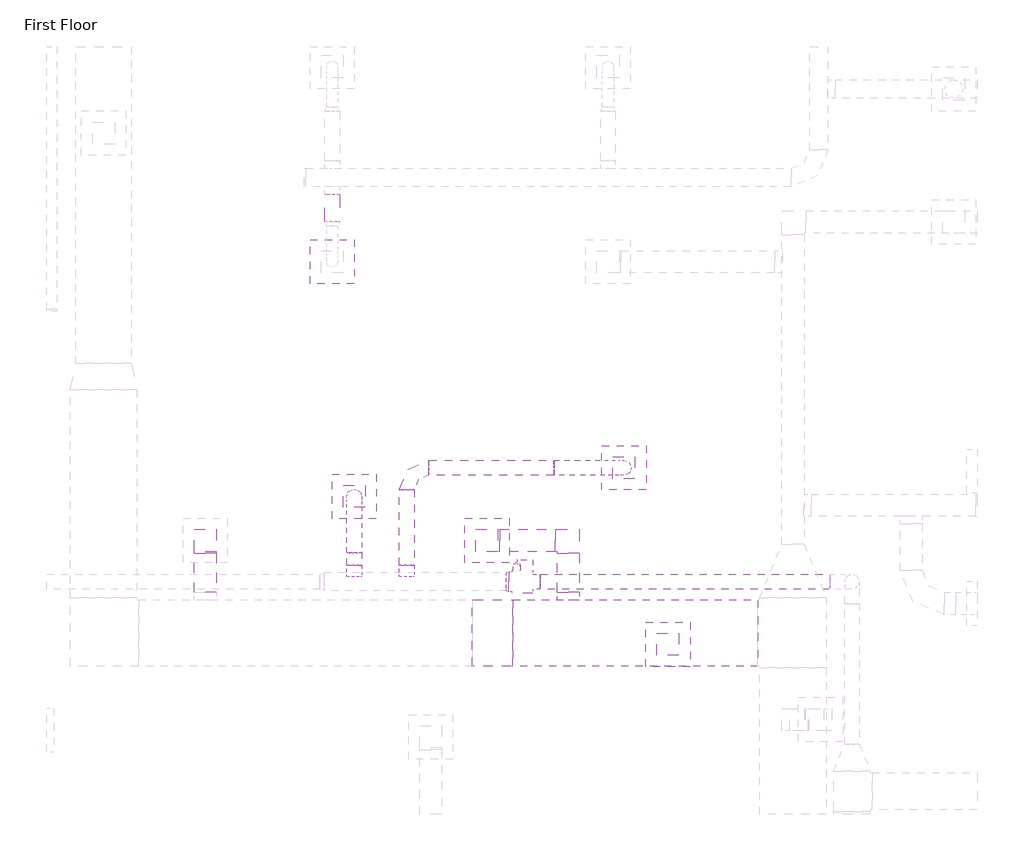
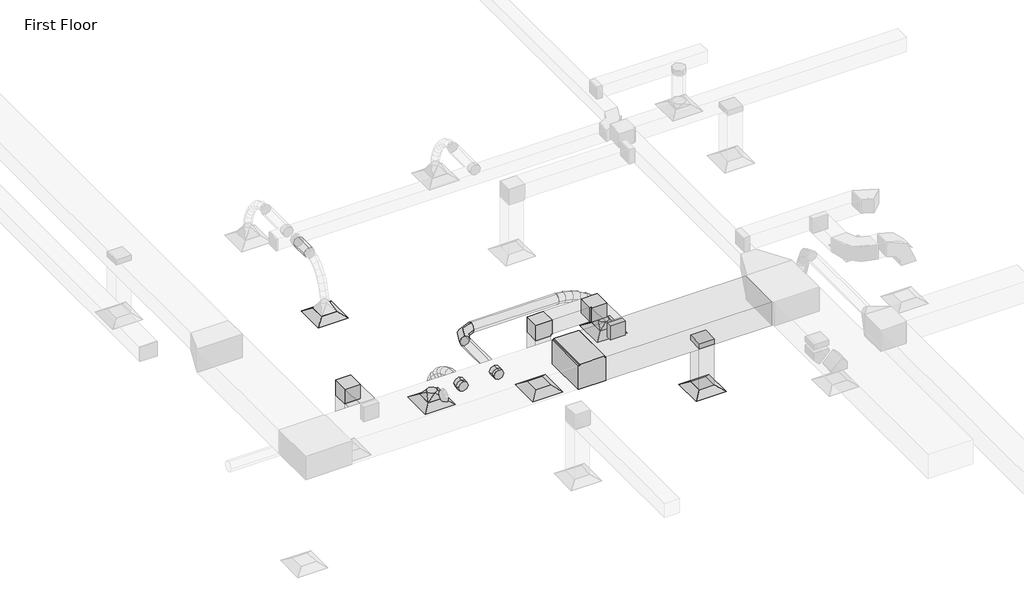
# One storey, part 13 of 61: 14 duct segments, 12 duct fittings, 5 air terminals, 1 proxy.
"""IFC4 building model written with IfcOpenShell, lengths in millimetres."""

from ifc_helpers import new_model, si_unit, point, frame, frame_2d, origin, place, context, project, spatial, polyline, circle_curve, ellipse_curve, trimmed, segment, composite_curve, outline, extrude, transform, mapped, element, save
from ifc_brep_helpers import plane_surface, cylinder_surface, advanced_brep
from components import m_exhaust_grill_er_600_x_600_face_300_x_300_connection_ff221211, m_vav_unit_single_duct_200_mm_f9143229, m_rectangular_elbow_mitered_standard_8eee5933, m_rectangular_takeoff_standard_c00386d1, m_rectangular_takeoff_standard_b44bfa45, m_rectangular_tee_standard_badd32bc, m_rectangular_to_round_transition_angle_45_degree_60daae35, m_rectangular_to_round_transition_angle_45_degree_2367f443, m_round_elbow_1_5_d_b7bc3624, m_round_takeoff_standard_2adb3d06

model = new_model("IFC4")

# Units and contexts
model_context = context("Model", 3, world=origin())
ifc_project = project(units=[si_unit("LENGTHUNIT", "METRE", prefix="MILLI")], contexts=[model_context])

# Site, building, storey
site = spatial("IfcSite", under=ifc_project)
building = spatial("IfcBuilding", under=site)
storey = spatial("IfcBuildingStorey", under=building, Name="First Floor", Elevation=0.0)

# Air terminals
placement = place(None, origin())
m_exhaust_grill_er_600_x_600_face_300_x_300_connection_shape = m_exhaust_grill_er_600_x_600_face_300_x_300_connection_ff221211(model_context)
element("IfcAirTerminal", 1, ObjectType="M_Return Register : RR-600 x 600 Face 300 x 300 Connection", at=placement, inside=storey, context=model_context, shape_type="MappedRepresentation", body=[
    mapped(m_exhaust_grill_er_600_x_600_face_300_x_300_connection_shape, transform((-44016.2479262, 26481.8812417, 2680.0), x_axis=(1.0, 0.0, 0.0), y_axis=(0.0, 1.0, 0.0), z_axis=(0.0, 0.0, 1.0))),
])
element("IfcAirTerminal", 2, ObjectType="M_Return Register : RR-600 x 600 Face 300 x 300 Connection", at=placement, inside=storey, context=model_context, shape_type="MappedRepresentation", body=[
    mapped(m_exhaust_grill_er_600_x_600_face_300_x_300_connection_shape, transform((-41563.2007188, 25073.0, 2680.0), x_axis=(1.0, 0.0, 0.0), y_axis=(0.0, 1.0, 0.0), z_axis=(0.0, 0.0, 1.0))),
])
element("IfcAirTerminal", 3, ObjectType="M_Supply Diffuser : SD-600 x 600 Face 300 x 300 Connection", at=placement, inside=storey, context=model_context, shape_type="MappedRepresentation", body=[
    mapped(m_exhaust_grill_er_600_x_600_face_300_x_300_connection_shape, transform((-46112.4296862, 30260.8017144, 2680.0), x_axis=(1.0, 0.0, 0.0), y_axis=(0.0, 1.0, 0.0), z_axis=(0.0, 0.0, 1.0))),
])
element("IfcAirTerminal", 4, ObjectType="M_Supply Diffuser : SD-600 x 600 Face 300 x 300 Connection", at=placement, inside=storey, context=model_context, shape_type="MappedRepresentation", body=[
    mapped(m_exhaust_grill_er_600_x_600_face_300_x_300_connection_shape, transform((-45814.0366701, 27079.0052234, 2680.0), x_axis=(1.0, 0.0, 0.0), y_axis=(0.0, 1.0, 0.0), z_axis=(0.0, 0.0, 1.0))),
])
element("IfcAirTerminal", 5, ObjectType="M_Supply Diffuser : SD-600 x 600 Face 300 x 300 Connection", at=placement, inside=storey, context=model_context, shape_type="MappedRepresentation", body=[
    mapped(m_exhaust_grill_er_600_x_600_face_300_x_300_connection_shape, transform((-42159.3716362, 27467.1116863, 2680.0), x_axis=(1.0, 0.0, 0.0), y_axis=(0.0, 1.0, 0.0), z_axis=(0.0, 0.0, 1.0))),
])

# Proxy
m_vav_unit_single_duct_200_mm_shape = m_vav_unit_single_duct_200_mm_f9143229(model_context)
element("IfcBuildingElementProxy", 6, Name="M_VAV Unit - Single Duct : 200 mm", ObjectType="M_VAV Unit - Single Duct : 200 mm", at=placement, inside=storey, context=model_context, shape_type="MappedRepresentation", body=[
    mapped(m_vav_unit_single_duct_200_mm_shape, transform((-43391.9384072, 25922.5121835, 3500.0), x_axis=(-1.0000000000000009, 0.0, 0.0), y_axis=(0.0, -1.0000000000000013, 0.0), z_axis=(0.0, 0.0, 1.0000000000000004))),
])

# Duct fittings
m_rectangular_elbow_mitered_standard_shape = m_rectangular_elbow_mitered_standard_8eee5933(model_context)
element("IfcDuctFitting", 7, ObjectType="M_Rectangular Elbow - Mitered : Standard", at=placement, inside=storey, context=model_context, shape_type="MappedRepresentation", body=[
    mapped(m_rectangular_elbow_mitered_standard_shape, transform((-47834.1400676, 26481.8812417, 4000.0), x_axis=(0.0, 0.0, 1.0), y_axis=(0.0, -1.0, 0.0), z_axis=(1.0, 0.0, 0.0))),
])
element("IfcDuctFitting", 8, ObjectType="M_Rectangular Elbow - Mitered : Standard", at=placement, inside=storey, context=model_context, shape_type="MappedRepresentation", body=[
    mapped(m_rectangular_elbow_mitered_standard_shape, transform((-44016.2479262, 26481.8812417, 4000.0), x_axis=(0.0, 0.0, 1.0), y_axis=(1.0, 0.0, 0.0), z_axis=(0.0, 1.0, 0.0))),
])
element("IfcDuctFitting", 9, ObjectType="M_Rectangular Elbow - Mitered : Standard", at=placement, inside=storey, context=model_context, shape_type="MappedRepresentation", body=[
    mapped(m_rectangular_elbow_mitered_standard_shape, transform((-42912.5515014, 26481.8812417, 4000.0), x_axis=(0.0, 1.0, 0.0), y_axis=(-1.0, 0.0, 0.0), z_axis=(0.0, 0.0, 1.0))),
])
m_rectangular_takeoff_standard_shape = m_rectangular_takeoff_standard_c00386d1(model_context)
element("IfcDuctFitting", 10, ObjectType="M_Rectangular Takeoff : Standard", at=placement, inside=storey, context=model_context, shape_type="MappedRepresentation", body=[
    mapped(m_rectangular_takeoff_standard_shape, transform((-42912.5515014, 25678.8199771, 4000.0), x_axis=(0.0, 1.0, 0.0), y_axis=(1.0, 0.0, 0.0), z_axis=(0.0, 0.0, -1.0))),
])
m_rectangular_takeoff_standard_2_shape = m_rectangular_takeoff_standard_b44bfa45(model_context)
element("IfcDuctFitting", 11, ObjectType="M_Rectangular Takeoff : Standard", at=placement, inside=storey, context=model_context, shape_type="MappedRepresentation", body=[
    mapped(m_rectangular_takeoff_standard_2_shape, transform((-41563.2007188, 25073.0, 3749.9984493), x_axis=(0.0, 0.0, -1.0), y_axis=(-1.0, 0.0, 0.0), z_axis=(0.0, 1.0, 0.0))),
])
m_rectangular_tee_standard_shape = m_rectangular_tee_standard_badd32bc(model_context)
element("IfcDuctFitting", 12, ObjectType="M_Rectangular Tee : Standard", at=placement, inside=storey, context=model_context, shape_type="MappedRepresentation", body=[
    mapped(m_rectangular_tee_standard_shape, transform((-43937.5515014, 25228.8199771, 3999.9984493), x_axis=(-1.0, 0.0, 0.0), y_axis=(0.0, 0.0, -1.0), z_axis=(0.0, -1.0, 0.0))),
])
m_rectangular_to_round_transition_angle_45_degree_shape = m_rectangular_to_round_transition_angle_45_degree_60daae35(model_context)
element("IfcDuctFitting", 13, ObjectType="M_Rectangular to Round Transition - Angle : 45 Degree", at=placement, inside=storey, context=model_context, shape_type="MappedRepresentation", body=[
    mapped(m_rectangular_to_round_transition_angle_45_degree_shape, transform((-45814.0366701, 27079.0052234, 2781.6), x_axis=(0.0, 0.0, 1.0), y_axis=(1.0, 0.0, 0.0), z_axis=(0.0, 1.0, 0.0))),
])
element("IfcDuctFitting", 14, ObjectType="M_Rectangular to Round Transition - Angle : 45 Degree", at=placement, inside=storey, context=model_context, shape_type="MappedRepresentation", body=[
    mapped(m_rectangular_to_round_transition_angle_45_degree_shape, transform((-42159.3716362, 27467.1116863, 2781.6), x_axis=(0.0, 0.0, 1.0), y_axis=(1.0, 0.0, 0.0), z_axis=(0.0, 1.0, 0.0))),
])
m_rectangular_to_round_transition_angle_45_degree_2_shape = m_rectangular_to_round_transition_angle_45_degree_2367f443(model_context)
element("IfcDuctFitting", 15, ObjectType="M_Rectangular to Round Transition - Angle : 45 Degree", at=placement, inside=storey, context=model_context, shape_type="MappedRepresentation", body=[
    mapped(m_rectangular_to_round_transition_angle_45_degree_2_shape, transform((-43721.7384072, 25922.5121835, 3644.05), x_axis=(-1.0, 0.0, 0.0), y_axis=(0.0, -1.0, 0.0), z_axis=(0.0, 0.0, 1.0))),
])
m_round_elbow_1_5_d_shape = m_round_elbow_1_5_d_b7bc3624(model_context)
element("IfcDuctFitting", 16, ObjectType="M_Round Elbow : 1.5 D", at=placement, inside=storey, context=model_context, shape_type="MappedRepresentation", body=[
    mapped(m_round_elbow_1_5_d_shape, transform((-45102.5183644, 27467.1116863, 3644.1), x_axis=(-1.0, 0.0, 0.0), y_axis=(0.0, -1.0, 0.0), z_axis=(0.0, 0.0, 1.0))),
])
m_round_takeoff_standard_shape = m_round_takeoff_standard_2adb3d06(model_context)
element("IfcDuctFitting", 17, ObjectType="M_Round Takeoff : Standard", at=placement, inside=storey, context=model_context, shape_type="MappedRepresentation", body=[
    mapped(m_round_takeoff_standard_shape, transform((-45814.0366701, 26047.5121835, 3644.1), x_axis=(0.0, 1.0, 0.0), y_axis=(1.0, 0.0, 0.0), z_axis=(0.0, 0.0, -1.0))),
])
element("IfcDuctFitting", 18, ObjectType="M_Round Takeoff : Standard", at=placement, inside=storey, context=model_context, shape_type="MappedRepresentation", body=[
    mapped(m_round_takeoff_standard_shape, transform((-45102.5183644, 26047.5121835, 3644.1), x_axis=(0.0, 1.0, 0.0), y_axis=(1.0, 0.0, 0.0), z_axis=(0.0, 0.0, -1.0))),
])

# Duct segments
element("IfcDuctSegment", 19, ObjectType="Flex - Round", at=placement, inside=storey, context=model_context, shape_type="AdvancedBrep", body=[
    advanced_brep(
    [(-45914.0366701, 26319.5713832, 3644.1), (-45814.0366701, 26306.7454039, 3544.9259396), (-45714.0366701, 26319.5713832, 3644.1), (-45814.0366701, 26332.3973625, 3743.2740604), (-45914.0366701, 26453.8015901, 3626.7402807), (-45814.0366701, 26429.9621786, 3528.990565), (-45714.0366701, 26453.8015901, 3626.7402807), (-45814.0366701, 26477.6410015, 3724.4899963), (-45914.0366701, 27079.0052234, 2902.3106781), (-45814.0366701, 27178.0964564, 2915.7616094), (-45714.0366701, 27079.0052234, 2902.3106781), (-45814.0366701, 26979.9139905, 2888.8597468), (-45914.0366701, 26587.5201952, 3577.9578433), (-45814.0366701, 26544.6645617, 3487.1455143), (-45714.0366701, 26587.5201952, 3577.9578433), (-45814.0366701, 26630.3758288, 3668.7701723), (-45914.0366701, 26715.3685743, 3502.697769), (-45814.0366701, 26657.6990065, 3420.6059087), (-45714.0366701, 26715.3685743, 3502.697769), (-45814.0366701, 26773.0381421, 3584.7896292), (-45914.0366701, 26831.9881029, 3405.9051386), (-45814.0366701, 26762.1423086, 3333.9193815), (-45714.0366701, 26831.9881029, 3405.9051386), (-45814.0366701, 26901.8338971, 3477.8908957), (-45914.0366701, 26932.0201565, 3292.5250334), (-45814.0366701, 26851.5748291, 3232.5531871), (-45714.0366701, 26932.0201565, 3292.5250334), (-45814.0366701, 27012.4654838, 3352.4968796), (-45914.0366701, 27010.1061107, 3167.5025342), (-45814.0366701, 26920.2335985, 3122.6244424), (-45714.0366701, 27010.1061107, 3167.5025342), (-45814.0366701, 27099.978623, 3212.380626), (-45914.0366701, 27060.8873412, 3035.7827221), (-45814.0366701, 26963.3705929, 3010.7327699), (-45714.0366701, 27060.8873412, 3035.7827221), (-45814.0366701, 27158.4040894, 3060.8326743)],
    [
        (0, 1, circle_curve(frame((-45814.0366701, 26319.5713832, 3644.1), z_axis=(0.0, -0.99174060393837, 0.12825979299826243), x_axis=(-1.0, 0.0, 0.0)), 100.0)),
        (1, 2, circle_curve(frame((-45814.0366701, 26319.5713832, 3644.1), z_axis=(0.0, -0.99174060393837, 0.12825979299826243), x_axis=(-1.0, 0.0, 0.0)), 100.0)),
        (2, 3, circle_curve(frame((-45814.0366701, 26319.5713832, 3644.1), z_axis=(0.0, -0.99174060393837, 0.12825979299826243), x_axis=(-1.0, 0.0, 0.0)), 100.0)),
        (3, 0, circle_curve(frame((-45814.0366701, 26319.5713832, 3644.1), z_axis=(0.0, -0.99174060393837, 0.12825979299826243), x_axis=(-1.0, 0.0, 0.0)), 100.0)),
        (0, 4),
        (4, 5, ellipse_curve(frame((-45814.0366701, 26453.8015901, 3626.7402807), z_axis=(0.0, -0.9715248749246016, 0.23693758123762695), x_axis=(0.0, -0.2369375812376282, -0.9715248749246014)), 100.6147327, 100.0)),
        (5, 1),
        (5, 6, ellipse_curve(frame((-45814.0366701, 26453.8015901, 3626.7402807), z_axis=(0.0, -0.9715248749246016, 0.23693758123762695), x_axis=(0.0, -0.2369375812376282, -0.9715248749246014)), 100.6147327, 100.0)),
        (6, 2),
        (6, 7, ellipse_curve(frame((-45814.0366701, 26453.8015901, 3626.7402807), z_axis=(0.0, -0.9715248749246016, 0.23693758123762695), x_axis=(0.0, -0.2369375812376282, -0.9715248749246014)), 100.6147327, 100.0)),
        (7, 3),
        (7, 4, ellipse_curve(frame((-45814.0366701, 26453.8015901, 3626.7402807), z_axis=(0.0, -0.9715248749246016, 0.23693758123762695), x_axis=(0.0, -0.2369375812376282, -0.9715248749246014)), 100.6147327, 100.0)),
        (8, 9, circle_curve(frame((-45814.0366701, 27079.0052234, 2902.3106781), z_axis=(0.0, 0.13450931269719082, -0.9909123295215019), x_axis=(-1.0, 0.0, 0.0)), 100.0)),
        (9, 10, circle_curve(frame((-45814.0366701, 27079.0052234, 2902.3106781), z_axis=(0.0, 0.13450931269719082, -0.9909123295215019), x_axis=(-1.0, 0.0, 0.0)), 100.0)),
        (10, 11, circle_curve(frame((-45814.0366701, 27079.0052234, 2902.3106781), z_axis=(0.0, 0.13450931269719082, -0.9909123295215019), x_axis=(-1.0, 0.0, 0.0)), 100.0)),
        (11, 8, circle_curve(frame((-45814.0366701, 27079.0052234, 2902.3106781), z_axis=(0.0, 0.13450931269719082, -0.9909123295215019), x_axis=(-1.0, 0.0, 0.0)), 100.0)),
        (4, 12),
        (12, 13, ellipse_curve(frame((-45814.0366701, 26587.5201952, 3577.9578433), z_axis=(0.0, -0.9043561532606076, 0.4267785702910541), x_axis=(0.0, -0.42677857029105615, -0.9043561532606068)), 100.4165545, 100.0)),
        (13, 5),
        (13, 14, ellipse_curve(frame((-45814.0366701, 26587.5201952, 3577.9578433), z_axis=(0.0, -0.9043561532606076, 0.4267785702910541), x_axis=(0.0, -0.42677857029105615, -0.9043561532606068)), 100.4165545, 100.0)),
        (14, 6),
        (14, 15, ellipse_curve(frame((-45814.0366701, 26587.5201952, 3577.9578433), z_axis=(0.0, -0.9043561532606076, 0.4267785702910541), x_axis=(0.0, -0.42677857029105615, -0.9043561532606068)), 100.4165545, 100.0)),
        (15, 7),
        (15, 12, ellipse_curve(frame((-45814.0366701, 26587.5201952, 3577.9578433), z_axis=(0.0, -0.9043561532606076, 0.4267785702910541), x_axis=(0.0, -0.42677857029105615, -0.9043561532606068)), 100.4165545, 100.0)),
        (12, 16),
        (16, 17, ellipse_curve(frame((-45814.0366701, 26715.3685743, 3502.697769), z_axis=(0.0, -0.8182695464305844, 0.5748347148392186), x_axis=(0.0, -0.5748347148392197, -0.8182695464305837)), 100.3237388, 100.0)),
        (17, 13),
        (17, 18, ellipse_curve(frame((-45814.0366701, 26715.3685743, 3502.697769), z_axis=(0.0, -0.8182695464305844, 0.5748347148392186), x_axis=(0.0, -0.5748347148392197, -0.8182695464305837)), 100.3237388, 100.0)),
        (18, 14),
        (18, 19, ellipse_curve(frame((-45814.0366701, 26715.3685743, 3502.697769), z_axis=(0.0, -0.8182695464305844, 0.5748347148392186), x_axis=(0.0, -0.5748347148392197, -0.8182695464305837)), 100.3237388, 100.0)),
        (19, 15),
        (19, 16, ellipse_curve(frame((-45814.0366701, 26715.3685743, 3502.697769), z_axis=(0.0, -0.8182695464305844, 0.5748347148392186), x_axis=(0.0, -0.5748347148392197, -0.8182695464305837)), 100.3237388, 100.0)),
        (16, 20),
        (20, 21, ellipse_curve(frame((-45814.0366701, 26831.9881029, 3405.9051386), z_axis=(0.0, -0.7176939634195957, 0.6963586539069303), x_axis=(0.0, -0.696358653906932, -0.717693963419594)), 100.3014666, 100.0)),
        (21, 17),
        (21, 22, ellipse_curve(frame((-45814.0366701, 26831.9881029, 3405.9051386), z_axis=(0.0, -0.7176939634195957, 0.6963586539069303), x_axis=(0.0, -0.696358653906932, -0.717693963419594)), 100.3014666, 100.0)),
        (22, 18),
        (22, 23, ellipse_curve(frame((-45814.0366701, 26831.9881029, 3405.9051386), z_axis=(0.0, -0.7176939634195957, 0.6963586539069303), x_axis=(0.0, -0.696358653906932, -0.717693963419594)), 100.3014666, 100.0)),
        (23, 19),
        (23, 20, ellipse_curve(frame((-45814.0366701, 26831.9881029, 3405.9051386), z_axis=(0.0, -0.7176939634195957, 0.6963586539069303), x_axis=(0.0, -0.696358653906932, -0.717693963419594)), 100.3014666, 100.0)),
        (20, 24),
        (24, 25, ellipse_curve(frame((-45814.0366701, 26932.0201565, 3292.5250334), z_axis=(0.0, -0.5976875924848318, 0.8017290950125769), x_axis=(0.0, -0.8017290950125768, -0.5976875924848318)), 100.3397879, 100.0)),
        (25, 21),
        (25, 26, ellipse_curve(frame((-45814.0366701, 26932.0201565, 3292.5250334), z_axis=(0.0, -0.5976875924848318, 0.8017290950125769), x_axis=(0.0, -0.8017290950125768, -0.5976875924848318)), 100.3397879, 100.0)),
        (26, 22),
        (26, 27, ellipse_curve(frame((-45814.0366701, 26932.0201565, 3292.5250334), z_axis=(0.0, -0.5976875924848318, 0.8017290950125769), x_axis=(0.0, -0.8017290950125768, -0.5976875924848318)), 100.3397879, 100.0)),
        (27, 23),
        (27, 24, ellipse_curve(frame((-45814.0366701, 26932.0201565, 3292.5250334), z_axis=(0.0, -0.5976875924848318, 0.8017290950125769), x_axis=(0.0, -0.8017290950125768, -0.5976875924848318)), 100.3397879, 100.0)),
        (24, 28),
        (28, 29, ellipse_curve(frame((-45814.0366701, 27010.1061107, 3167.5025342), z_axis=(0.0, -0.44675032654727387, 0.8946586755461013), x_axis=(0.0, -0.8946586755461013, -0.44675032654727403)), 100.4545249, 100.0)),
        (29, 25),
        (29, 30, ellipse_curve(frame((-45814.0366701, 27010.1061107, 3167.5025342), z_axis=(0.0, -0.44675032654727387, 0.8946586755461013), x_axis=(0.0, -0.8946586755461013, -0.44675032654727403)), 100.4545249, 100.0)),
        (30, 26),
        (30, 31, ellipse_curve(frame((-45814.0366701, 27010.1061107, 3167.5025342), z_axis=(0.0, -0.44675032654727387, 0.8946586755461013), x_axis=(0.0, -0.8946586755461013, -0.44675032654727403)), 100.4545249, 100.0)),
        (31, 27),
        (31, 28, ellipse_curve(frame((-45814.0366701, 27010.1061107, 3167.5025342), z_axis=(0.0, -0.44675032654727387, 0.8946586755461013), x_axis=(0.0, -0.8946586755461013, -0.44675032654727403)), 100.4545249, 100.0)),
        (28, 32),
        (32, 33, ellipse_curve(frame((-45814.0366701, 27060.8873412, 3035.7827221), z_axis=(0.0, -0.24880083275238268, 0.9685546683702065), x_axis=(0.0, -0.968554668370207, -0.24880083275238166)), 100.6827507, 100.0)),
        (33, 29),
        (33, 34, ellipse_curve(frame((-45814.0366701, 27060.8873412, 3035.7827221), z_axis=(0.0, -0.24880083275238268, 0.9685546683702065), x_axis=(0.0, -0.968554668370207, -0.24880083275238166)), 100.6827507, 100.0)),
        (34, 30),
        (34, 35, ellipse_curve(frame((-45814.0366701, 27060.8873412, 3035.7827221), z_axis=(0.0, -0.24880083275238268, 0.9685546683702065), x_axis=(0.0, -0.968554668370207, -0.24880083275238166)), 100.6827507, 100.0)),
        (35, 31),
        (35, 32, ellipse_curve(frame((-45814.0366701, 27060.8873412, 3035.7827221), z_axis=(0.0, -0.24880083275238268, 0.9685546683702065), x_axis=(0.0, -0.968554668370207, -0.24880083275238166)), 100.6827507, 100.0)),
        (32, 8),
        (11, 33),
        (10, 34),
        (9, 35),
    ],
    [
        plane_surface(frame((-45814.0366701, 26332.3973625, 3743.2740604), z_axis=(0.0, -0.9917406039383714, 0.12825979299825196), x_axis=(1.0, 0.0, 0.0))),
        cylinder_surface(frame((-45814.0366701, 26319.5713832, 3644.1), z_axis=(0.0, -0.99174060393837, 0.12825979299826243), x_axis=(-1.0, 0.0, 0.0)), 100.0),
        plane_surface(frame((-45814.0366701, 27178.0964564, 2915.7616094), z_axis=(0.0, 0.1345093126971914, -0.9909123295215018), x_axis=(1.0, 0.0, 0.0))),
        cylinder_surface(frame((-45814.0366701, 26453.8015901, 3626.7402807), z_axis=(0.0, -0.9394375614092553, 0.34272010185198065), x_axis=(-1.0, 0.0, 0.0)), 100.0),
        cylinder_surface(frame((-45814.0366701, 26587.5201952, 3577.9578433), z_axis=(0.0, -0.8617717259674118, 0.5072962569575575), x_axis=(-1.0, 0.0, 0.0)), 100.0),
        cylinder_surface(frame((-45814.0366701, 26715.3685743, 3502.697769), z_axis=(0.0, -0.7694863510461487, 0.6386632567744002), x_axis=(-1.0, 0.0, 0.0)), 100.0),
        cylinder_surface(frame((-45814.0366701, 26831.9881029, 3405.9051386), z_axis=(0.0, -0.6615873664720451, 0.749868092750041), x_axis=(-1.0, 0.0, 0.0)), 100.0),
        cylinder_surface(frame((-45814.0366701, 26932.0201565, 3292.5250334), z_axis=(0.0, -0.5297398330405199, 0.8481601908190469), x_axis=(-1.0, 0.0, 0.0)), 100.0),
        cylinder_surface(frame((-45814.0366701, 27010.1061107, 3167.5025342), z_axis=(0.0, -0.35971801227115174, 0.9330610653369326), x_axis=(-1.0, 0.0, 0.0)), 100.0),
        cylinder_surface(frame((-45814.0366701, 27060.8873412, 3035.7827221), z_axis=(0.0, -0.13450931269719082, 0.9909123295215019), x_axis=(-1.0, 0.0, 0.0)), 100.0),
    ],
    [
        (0, [[1, 2, 3, 4]]),
        (1, [[-1, 5, 6, 7]]),
        (1, [[-2, -7, 8, 9]]),
        (1, [[-3, -9, 10, 11]]),
        (1, [[-4, -11, 12, -5]]),
        (2, [[13, 14, 15, 16]]),
        (3, [[-6, 17, 18, 19]]),
        (3, [[-8, -19, 20, 21]]),
        (3, [[-10, -21, 22, 23]]),
        (3, [[-12, -23, 24, -17]]),
        (4, [[-18, 25, 26, 27]]),
        (4, [[-20, -27, 28, 29]]),
        (4, [[-22, -29, 30, 31]]),
        (4, [[-24, -31, 32, -25]]),
        (5, [[-26, 33, 34, 35]]),
        (5, [[-28, -35, 36, 37]]),
        (5, [[-30, -37, 38, 39]]),
        (5, [[-32, -39, 40, -33]]),
        (6, [[-34, 41, 42, 43]]),
        (6, [[-36, -43, 44, 45]]),
        (6, [[-38, -45, 46, 47]]),
        (6, [[-40, -47, 48, -41]]),
        (7, [[-42, 49, 50, 51]]),
        (7, [[-44, -51, 52, 53]]),
        (7, [[-46, -53, 54, 55]]),
        (7, [[-48, -55, 56, -49]]),
        (8, [[-50, 57, 58, 59]]),
        (8, [[-52, -59, 60, 61]]),
        (8, [[-54, -61, 62, 63]]),
        (8, [[-56, -63, 64, -57]]),
        (9, [[-58, 65, -16, 66]]),
        (9, [[-60, -66, -15, 67]]),
        (9, [[-62, -67, -14, 68]]),
        (9, [[-64, -68, -13, -65]]),
    ],
),
])
element("IfcDuctSegment", 20, ObjectType="Flex - Round", at=placement, inside=storey, context=model_context, shape_type="AdvancedBrep", body=[
    advanced_brep(
    [(-43102.5183644, 27567.1116863, 3644.1), (-43111.3954372, 27467.1116863, 3544.4947914), (-43102.5183644, 27367.1116863, 3644.1), (-43093.6412915, 27467.1116863, 3743.7052086), (-42964.8328702, 27567.1116863, 3631.829114), (-42981.3655584, 27467.1116863, 3532.9061936), (-42964.8328702, 27367.1116863, 3631.829114), (-42948.300182, 27467.1116863, 3730.7520344), (-42159.3716362, 27567.1116863, 2902.3106781), (-42060.4296068, 27467.1116863, 2916.8184278), (-42159.3716362, 27367.1116863, 2902.3106781), (-42258.3136657, 27467.1116863, 2887.8029284), (-42822.1885991, 27567.1116863, 3596.5729525), (-42852.6419997, 27467.1116863, 3501.0906952), (-42822.1885991, 27367.1116863, 3596.5729525), (-42791.7351985, 27467.1116863, 3692.0552098), (-42680.2348213, 27567.1116863, 3540.6662604), (-42722.7294787, 27467.1116863, 3449.9262991), (-42680.2348213, 27367.1116863, 3540.6662604), (-42637.7401638, 27467.1116863, 3631.4062216), (-42544.6208067, 27567.1116863, 3466.4437826), (-42598.3225804, 27467.1116863, 3381.8375527), (-42544.6208067, 27367.1116863, 3466.4437826), (-42490.9190331, 27467.1116863, 3551.0500124), (-42420.9958256, 27567.1116863, 3376.2402639), (-42485.800169, 27467.1116863, 3299.7350736), (-42420.9958256, 27367.1116863, 3376.2402639), (-42356.1914821, 27467.1116863, 3452.7454542), (-42315.0091479, 27567.1116863, 3272.3904492), (-42391.1828448, 27467.1116863, 3207.0253878), (-42315.0091479, 27367.1116863, 3272.3904492), (-42238.8354509, 27467.1116863, 3337.7555107), (-42232.3100437, 27567.1116863, 3157.2290835), (-42319.8036486, 27467.1116863, 3107.6273859), (-42232.3100437, 27367.1116863, 3157.2290835), (-42144.8164388, 27467.1116863, 3206.8307811), (-42178.5477831, 27567.1116863, 3033.0909115), (-42275.5701834, 27467.1116863, 3005.4913995), (-42178.5477831, 27367.1116863, 3033.0909115), (-42081.5253828, 27467.1116863, 3060.6904235)],
    [
        (0, 1, circle_curve(frame((-43102.5183644, 27467.1116863, 3644.1), z_axis=(-0.9960520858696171, 0.0, 0.0887707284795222), x_axis=(0.0, 1.0, 0.0)), 100.0)),
        (1, 2, circle_curve(frame((-43102.5183644, 27467.1116863, 3644.1), z_axis=(-0.9960520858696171, 0.0, 0.0887707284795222), x_axis=(0.0, 1.0, 0.0)), 100.0)),
        (2, 3, circle_curve(frame((-43102.5183644, 27467.1116863, 3644.1), z_axis=(-0.9960520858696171, 0.0, 0.0887707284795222), x_axis=(0.0, 1.0, 0.0)), 100.0)),
        (3, 0, circle_curve(frame((-43102.5183644, 27467.1116863, 3644.1), z_axis=(-0.9960520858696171, 0.0, 0.0887707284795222), x_axis=(0.0, 1.0, 0.0)), 100.0)),
        (0, 4),
        (4, 5, ellipse_curve(frame((-42964.8328702, 27467.1116863, 3631.829114), z_axis=(-0.9863202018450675, 0.0, 0.16484070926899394), x_axis=(-0.16484070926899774, 0.0, -0.9863202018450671)), 100.2949349, 100.0)),
        (5, 1),
        (5, 6, ellipse_curve(frame((-42964.8328702, 27467.1116863, 3631.829114), z_axis=(-0.9863202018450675, 0.0, 0.16484070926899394), x_axis=(-0.16484070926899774, 0.0, -0.9863202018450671)), 100.2949349, 100.0)),
        (6, 2),
        (6, 7, ellipse_curve(frame((-42964.8328702, 27467.1116863, 3631.829114), z_axis=(-0.9863202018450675, 0.0, 0.16484070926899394), x_axis=(-0.16484070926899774, 0.0, -0.9863202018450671)), 100.2949349, 100.0)),
        (7, 3),
        (7, 4, ellipse_curve(frame((-42964.8328702, 27467.1116863, 3631.829114), z_axis=(-0.9863202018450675, 0.0, 0.16484070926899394), x_axis=(-0.16484070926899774, 0.0, -0.9863202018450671)), 100.2949349, 100.0)),
        (8, 9, circle_curve(frame((-42159.3716362, 27467.1116863, 2902.3106781), z_axis=(0.14507749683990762, 0.0, -0.9894202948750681), x_axis=(0.0, 1.0, 0.0)), 100.0)),
        (9, 10, circle_curve(frame((-42159.3716362, 27467.1116863, 2902.3106781), z_axis=(0.14507749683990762, 0.0, -0.9894202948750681), x_axis=(0.0, 1.0, 0.0)), 100.0)),
        (10, 11, circle_curve(frame((-42159.3716362, 27467.1116863, 2902.3106781), z_axis=(0.14507749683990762, 0.0, -0.9894202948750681), x_axis=(0.0, 1.0, 0.0)), 100.0)),
        (11, 8, circle_curve(frame((-42159.3716362, 27467.1116863, 2902.3106781), z_axis=(0.14507749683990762, 0.0, -0.9894202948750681), x_axis=(0.0, 1.0, 0.0)), 100.0)),
        (4, 12),
        (12, 13, ellipse_curve(frame((-42822.1885991, 27467.1116863, 3596.5729525), z_axis=(-0.9527160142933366, 0.0, 0.3038621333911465), x_axis=(-0.30386213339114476, 0.0, -0.9527160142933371)), 100.2211109, 100.0)),
        (13, 5),
        (13, 14, ellipse_curve(frame((-42822.1885991, 27467.1116863, 3596.5729525), z_axis=(-0.9527160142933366, 0.0, 0.3038621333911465), x_axis=(-0.30386213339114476, 0.0, -0.9527160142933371)), 100.2211109, 100.0)),
        (14, 6),
        (14, 15, ellipse_curve(frame((-42822.1885991, 27467.1116863, 3596.5729525), z_axis=(-0.9527160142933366, 0.0, 0.3038621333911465), x_axis=(-0.30386213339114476, 0.0, -0.9527160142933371)), 100.2211109, 100.0)),
        (15, 7),
        (15, 12, ellipse_curve(frame((-42822.1885991, 27467.1116863, 3596.5729525), z_axis=(-0.9527160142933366, 0.0, 0.3038621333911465), x_axis=(-0.30386213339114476, 0.0, -0.9527160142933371)), 100.2211109, 100.0)),
        (12, 16),
        (16, 17, ellipse_curve(frame((-42680.2348213, 27467.1116863, 3540.6662604), z_axis=(-0.9056111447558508, 0.0, 0.4241090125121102), x_axis=(-0.4241090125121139, 0.0, -0.9056111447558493)), 100.1974874, 100.0)),
        (17, 13),
        (17, 18, ellipse_curve(frame((-42680.2348213, 27467.1116863, 3540.6662604), z_axis=(-0.9056111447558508, 0.0, 0.4241090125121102), x_axis=(-0.4241090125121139, 0.0, -0.9056111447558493)), 100.1974874, 100.0)),
        (18, 14),
        (18, 19, ellipse_curve(frame((-42680.2348213, 27467.1116863, 3540.6662604), z_axis=(-0.9056111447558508, 0.0, 0.4241090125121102), x_axis=(-0.4241090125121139, 0.0, -0.9056111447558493)), 100.1974874, 100.0)),
        (19, 15),
        (19, 16, ellipse_curve(frame((-42680.2348213, 27467.1116863, 3540.6662604), z_axis=(-0.9056111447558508, 0.0, 0.4241090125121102), x_axis=(-0.4241090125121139, 0.0, -0.9056111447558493)), 100.1974874, 100.0)),
        (16, 20),
        (20, 21, ellipse_curve(frame((-42544.6208067, 27467.1116863, 3466.4437826), z_axis=(-0.84428716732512, 0.0, 0.5358910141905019), x_axis=(-0.5358910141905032, 0.0, -0.8442871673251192)), 100.2102521, 100.0)),
        (21, 17),
        (21, 22, ellipse_curve(frame((-42544.6208067, 27467.1116863, 3466.4437826), z_axis=(-0.84428716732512, 0.0, 0.5358910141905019), x_axis=(-0.5358910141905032, 0.0, -0.8442871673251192)), 100.2102521, 100.0)),
        (22, 18),
        (22, 23, ellipse_curve(frame((-42544.6208067, 27467.1116863, 3466.4437826), z_axis=(-0.84428716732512, 0.0, 0.5358910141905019), x_axis=(-0.5358910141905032, 0.0, -0.8442871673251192)), 100.2102521, 100.0)),
        (23, 19),
        (23, 20, ellipse_curve(frame((-42544.6208067, 27467.1116863, 3466.4437826), z_axis=(-0.84428716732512, 0.0, 0.5358910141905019), x_axis=(-0.5358910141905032, 0.0, -0.8442871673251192)), 100.2102521, 100.0)),
        (20, 24),
        (24, 25, ellipse_curve(frame((-42420.9958256, 27467.1116863, 3376.2402639), z_axis=(-0.7630459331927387, 0.0, 0.6463442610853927), x_axis=(-0.6463442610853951, 0.0, -0.7630459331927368)), 100.2628898, 100.0)),
        (25, 21),
        (25, 26, ellipse_curve(frame((-42420.9958256, 27467.1116863, 3376.2402639), z_axis=(-0.7630459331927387, 0.0, 0.6463442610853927), x_axis=(-0.6463442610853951, 0.0, -0.7630459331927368)), 100.2628898, 100.0)),
        (26, 22),
        (26, 27, ellipse_curve(frame((-42420.9958256, 27467.1116863, 3376.2402639), z_axis=(-0.7630459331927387, 0.0, 0.6463442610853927), x_axis=(-0.6463442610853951, 0.0, -0.7630459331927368)), 100.2628898, 100.0)),
        (27, 23),
        (27, 24, ellipse_curve(frame((-42420.9958256, 27467.1116863, 3376.2402639), z_axis=(-0.7630459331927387, 0.0, 0.6463442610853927), x_axis=(-0.6463442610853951, 0.0, -0.7630459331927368)), 100.2628898, 100.0)),
        (24, 28),
        (28, 29, ellipse_curve(frame((-42315.0091479, 27467.1116863, 3272.3904492), z_axis=(-0.6512123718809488, 0.0, 0.7588955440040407), x_axis=(-0.7588955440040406, 0.0, -0.651212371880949)), 100.3744159, 100.0)),
        (29, 25),
        (29, 30, ellipse_curve(frame((-42315.0091479, 27467.1116863, 3272.3904492), z_axis=(-0.6512123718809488, 0.0, 0.7588955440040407), x_axis=(-0.7588955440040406, 0.0, -0.651212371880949)), 100.3744159, 100.0)),
        (30, 26),
        (30, 31, ellipse_curve(frame((-42315.0091479, 27467.1116863, 3272.3904492), z_axis=(-0.6512123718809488, 0.0, 0.7588955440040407), x_axis=(-0.7588955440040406, 0.0, -0.651212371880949)), 100.3744159, 100.0)),
        (31, 27),
        (31, 28, ellipse_curve(frame((-42315.0091479, 27467.1116863, 3272.3904492), z_axis=(-0.6512123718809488, 0.0, 0.7588955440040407), x_axis=(-0.7588955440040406, 0.0, -0.651212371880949)), 100.3744159, 100.0)),
        (28, 32),
        (32, 33, ellipse_curve(frame((-42232.3100437, 27467.1116863, 3157.2290835), z_axis=(-0.4931780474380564, 0.0, 0.8699283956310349), x_axis=(-0.8699283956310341, 0.0, -0.49317804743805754)), 100.5756397, 100.0)),
        (33, 29),
        (33, 34, ellipse_curve(frame((-42232.3100437, 27467.1116863, 3157.2290835), z_axis=(-0.4931780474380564, 0.0, 0.8699283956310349), x_axis=(-0.8699283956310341, 0.0, -0.49317804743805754)), 100.5756397, 100.0)),
        (34, 30),
        (34, 35, ellipse_curve(frame((-42232.3100437, 27467.1116863, 3157.2290835), z_axis=(-0.4931780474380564, 0.0, 0.8699283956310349), x_axis=(-0.8699283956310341, 0.0, -0.49317804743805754)), 100.5756397, 100.0)),
        (35, 31),
        (35, 32, ellipse_curve(frame((-42232.3100437, 27467.1116863, 3157.2290835), z_axis=(-0.4931780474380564, 0.0, 0.8699283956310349), x_axis=(-0.8699283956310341, 0.0, -0.49317804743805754)), 100.5756397, 100.0)),
        (32, 36),
        (36, 37, ellipse_curve(frame((-42178.5477831, 27467.1116863, 3033.0909115), z_axis=(-0.27361033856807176, 0.0, 0.9618406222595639), x_axis=(-0.9618406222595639, 0.0, -0.27361033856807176)), 100.8715977, 100.0)),
        (37, 33),
        (37, 38, ellipse_curve(frame((-42178.5477831, 27467.1116863, 3033.0909115), z_axis=(-0.27361033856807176, 0.0, 0.9618406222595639), x_axis=(-0.9618406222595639, 0.0, -0.27361033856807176)), 100.8715977, 100.0)),
        (38, 34),
        (38, 39, ellipse_curve(frame((-42178.5477831, 27467.1116863, 3033.0909115), z_axis=(-0.27361033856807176, 0.0, 0.9618406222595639), x_axis=(-0.9618406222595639, 0.0, -0.27361033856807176)), 100.8715977, 100.0)),
        (39, 35),
        (39, 36, ellipse_curve(frame((-42178.5477831, 27467.1116863, 3033.0909115), z_axis=(-0.27361033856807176, 0.0, 0.9618406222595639), x_axis=(-0.9618406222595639, 0.0, -0.27361033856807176)), 100.8715977, 100.0)),
        (36, 8),
        (11, 37),
        (10, 38),
        (9, 39),
    ],
    [
        plane_surface(frame((-43102.5183644, 27567.1116863, 3644.1), z_axis=(-0.9960520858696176, 0.0, 0.08877072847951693), x_axis=(0.08877072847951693, 0.0, 0.9960520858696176))),
        cylinder_surface(frame((-43102.5183644, 27467.1116863, 3644.1), z_axis=(-0.9960520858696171, 0.0, 0.0887707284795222), x_axis=(0.0, 1.0, 0.0)), 100.0),
        plane_surface(frame((-42159.3716362, 27567.1116863, 2902.3106781), z_axis=(0.14507749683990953, 0.0, -0.9894202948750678), x_axis=(0.9894202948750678, 0.0, 0.14507749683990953))),
        cylinder_surface(frame((-42964.8328702, 27467.1116863, 3631.829114), z_axis=(-0.9707874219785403, 0.0, 0.23994120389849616), x_axis=(0.0, 1.0, 0.0)), 100.0),
        cylinder_surface(frame((-42822.1885991, 27467.1116863, 3596.5729525), z_axis=(-0.9304407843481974, 0.0, 0.3664422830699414), x_axis=(0.0, 1.0, 0.0)), 100.0),
        cylinder_surface(frame((-42680.2348213, 27467.1116863, 3540.6662604), z_axis=(-0.8772116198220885, 0.0, 0.4801039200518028), x_axis=(0.0, 1.0, 0.0)), 100.0),
        cylinder_surface(frame((-42544.6208067, 27467.1116863, 3466.4437826), z_axis=(-0.8078199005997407, 0.0, 0.5894293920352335), x_axis=(0.0, 1.0, 0.0)), 100.0),
        cylinder_surface(frame((-42420.9958256, 27467.1116863, 3376.2402639), z_axis=(-0.7142705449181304, 0.0, 0.699869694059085), x_axis=(0.0, 1.0, 0.0)), 100.0),
        cylinder_surface(frame((-42315.0091479, 27467.1116863, 3272.3904492), z_axis=(-0.583295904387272, 0.0, 0.8122597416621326), x_axis=(0.0, 1.0, 0.0)), 100.0),
        cylinder_surface(frame((-42232.3100437, 27467.1116863, 3157.2290835), z_axis=(-0.3974148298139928, 0.0, 0.9176390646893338), x_axis=(0.0, 1.0, 0.0)), 100.0),
        cylinder_surface(frame((-42178.5477831, 27467.1116863, 3033.0909115), z_axis=(-0.14507749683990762, 0.0, 0.9894202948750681), x_axis=(0.0, 1.0, 0.0)), 100.0),
    ],
    [
        (0, [[1, 2, 3, 4]]),
        (1, [[-1, 5, 6, 7]]),
        (1, [[-2, -7, 8, 9]]),
        (1, [[-3, -9, 10, 11]]),
        (1, [[-4, -11, 12, -5]]),
        (2, [[13, 14, 15, 16]]),
        (3, [[-6, 17, 18, 19]]),
        (3, [[-8, -19, 20, 21]]),
        (3, [[-10, -21, 22, 23]]),
        (3, [[-12, -23, 24, -17]]),
        (4, [[-18, 25, 26, 27]]),
        (4, [[-20, -27, 28, 29]]),
        (4, [[-22, -29, 30, 31]]),
        (4, [[-24, -31, 32, -25]]),
        (5, [[-26, 33, 34, 35]]),
        (5, [[-28, -35, 36, 37]]),
        (5, [[-30, -37, 38, 39]]),
        (5, [[-32, -39, 40, -33]]),
        (6, [[-34, 41, 42, 43]]),
        (6, [[-36, -43, 44, 45]]),
        (6, [[-38, -45, 46, 47]]),
        (6, [[-40, -47, 48, -41]]),
        (7, [[-42, 49, 50, 51]]),
        (7, [[-44, -51, 52, 53]]),
        (7, [[-46, -53, 54, 55]]),
        (7, [[-48, -55, 56, -49]]),
        (8, [[-50, 57, 58, 59]]),
        (8, [[-52, -59, 60, 61]]),
        (8, [[-54, -61, 62, 63]]),
        (8, [[-56, -63, 64, -57]]),
        (9, [[-58, 65, 66, 67]]),
        (9, [[-60, -67, 68, 69]]),
        (9, [[-62, -69, 70, 71]]),
        (9, [[-64, -71, 72, -65]]),
        (10, [[-66, 73, -16, 74]]),
        (10, [[-68, -74, -15, 75]]),
        (10, [[-70, -75, -14, 76]]),
        (10, [[-72, -76, -13, -73]]),
    ],
),
])
element("IfcDuctSegment", 21, ObjectType="Mitered Elbows / Taps", at=placement, inside=storey, context=model_context, shape_type="SweptSolid", body=[
    extrude(outline(polyline([(-47684.1400676, 25778.8199771), (-47984.1400676, 25778.8199771), (-47984.1400676, 26306.8812417), (-47684.1400676, 26306.8812417), (-47684.1400676, 25778.8199771)])), frame((0.0, 0.0, 3850.0), z_axis=(0.0, 0.0, 1.0), x_axis=(1.0, 0.0, 0.0)), (0.0, 0.0, 1.0), 300.0),
])
element("IfcDuctSegment", 22, ObjectType="Mitered Elbows / Taps", at=placement, inside=storey, context=model_context, shape_type="SweptSolid", body=[
    extrude(outline(polyline([(-47684.1400676, 26331.8812417), (-47984.1400676, 26331.8812417), (-47984.1400676, 26631.8812417), (-47684.1400676, 26631.8812417), (-47684.1400676, 26331.8812417)])), frame((0.0, 0.0, 2781.6), z_axis=(0.0, 0.0, 1.0), x_axis=(1.0, 0.0, 0.0)), (0.0, 0.0, 1.0), 1043.4),
])
element("IfcDuctSegment", 23, ObjectType="Mitered Elbows / Taps", at=placement, inside=storey, context=model_context, shape_type="SweptSolid", body=[
    extrude(outline(polyline([(-42762.5515014, 25778.8199771), (-43062.5515014, 25778.8199771), (-43062.5515014, 26306.8812417), (-42762.5515014, 26306.8812417), (-42762.5515014, 25778.8199771)])), frame((0.0, 0.0, 3850.0), z_axis=(0.0, 0.0, 1.0), x_axis=(1.0, 0.0, 0.0)), (0.0, 0.0, 1.0), 300.0),
])
element("IfcDuctSegment", 24, ObjectType="Mitered Elbows / Taps", at=placement, inside=storey, context=model_context, shape_type="SweptSolid", body=[
    extrude(outline(polyline([(-43841.2479262, 26331.8812417), (-43841.2479262, 26631.8812417), (-43087.5515014, 26631.8812417), (-43087.5515014, 26331.8812417), (-43841.2479262, 26331.8812417)])), frame((0.0, 0.0, 3850.0), z_axis=(0.0, 0.0, 1.0), x_axis=(1.0, 0.0, 0.0)), (0.0, 0.0, 1.0), 300.0),
])
element("IfcDuctSegment", 25, ObjectType="Mitered Elbows / Taps", at=placement, inside=storey, context=model_context, shape_type="SweptSolid", body=[
    extrude(outline(polyline([(-43866.2479262, 26631.8812417), (-43866.2479262, 26331.8812417), (-44166.2479262, 26331.8812417), (-44166.2479262, 26631.8812417), (-43866.2479262, 26631.8812417)])), frame((0.0, 0.0, 2781.6), z_axis=(0.0, 0.0, 1.0), x_axis=(1.0, 0.0, 0.0)), (0.0, 0.0, 1.0), 1043.4),
])
element("IfcDuctSegment", 26, ObjectType="Mitered Elbows / Taps", at=placement, inside=storey, context=model_context, shape_type="SweptSolid", body=[
    extrude(outline(polyline([(-41713.2007188, 24923.0), (-41713.2007188, 25223.0), (-41413.2007188, 25223.0), (-41413.2007188, 24923.0), (-41713.2007188, 24923.0)])), frame((0.0, 0.0, 2781.6), z_axis=(0.0, 0.0, 1.0), x_axis=(1.0, 0.0, 0.0)), (0.0, 0.0, 1.0), 868.3984493),
])
element("IfcDuctSegment", 27, ObjectType="Mitered Elbows / Tees", at=placement, inside=storey, context=model_context, shape_type="SweptSolid", body=[
    extrude(outline(polyline([(-43662.5515014, 24778.8199771), (-43662.5515014, 25678.8199771), (-40342.4195561, 25678.8199771), (-40342.4195561, 24778.8199771), (-43662.5515014, 24778.8199771)])), frame((0.0, 0.0, 3749.9984493), z_axis=(0.0, 0.0, 1.0), x_axis=(1.0, 0.0, 0.0)), (0.0, 0.0, 1.0), 500.0),
])
element("IfcDuctSegment", 28, ObjectType="Taps", at=placement, inside=storey, context=model_context, shape_type="SweptSolid", body=[
    extrude(outline(composite_curve([segment(trimmed(circle_curve(frame_2d((3644.1, -45814.0366701)), 100.0), [point((3644.1, -45714.0366701))], [point((3744.1, -45814.0366701))], False, "CARTESIAN"), True, "CONTINUOUS"), segment(trimmed(circle_curve(frame_2d((3644.1, -45814.0366701)), 100.0), [point((3744.1, -45814.0366701))], [point((3644.1, -45914.0366701))], False, "CARTESIAN"), True, "CONTINUOUS"), segment(trimmed(circle_curve(frame_2d((3644.1, -45814.0366701)), 100.0), [point((3644.1, -45914.0366701))], [point((3544.1, -45814.0366701))], False, "CARTESIAN"), True, "CONTINUOUS"), segment(trimmed(circle_curve(frame_2d((3644.1, -45814.0366701)), 100.0), [point((3544.1, -45814.0366701))], [point((3644.1, -45714.0366701))], False, "CARTESIAN"), True, "CONTINUOUS")], self_intersect=False)), frame((0.0, 26147.5121835, 0.0), z_axis=(0.0, 1.0, 0.0), x_axis=(0.0, 0.0, 1.0)), (0.0, 0.0, 1.0), 172.0591997),
])
element("IfcDuctSegment", 29, ObjectType="Taps", at=placement, inside=storey, context=model_context, shape_type="SweptSolid", body=[
    extrude(outline(composite_curve([segment(trimmed(circle_curve(frame_2d((3644.1, -45102.5183644)), 100.0), [point((3644.1, -45002.5183644))], [point((3744.1, -45102.5183644))], False, "CARTESIAN"), True, "CONTINUOUS"), segment(trimmed(circle_curve(frame_2d((3644.1, -45102.5183644)), 100.0), [point((3744.1, -45102.5183644))], [point((3644.1, -45202.5183644))], False, "CARTESIAN"), True, "CONTINUOUS"), segment(trimmed(circle_curve(frame_2d((3644.1, -45102.5183644)), 100.0), [point((3644.1, -45202.5183644))], [point((3544.1, -45102.5183644))], False, "CARTESIAN"), True, "CONTINUOUS"), segment(trimmed(circle_curve(frame_2d((3644.1, -45102.5183644)), 100.0), [point((3544.1, -45102.5183644))], [point((3644.1, -45002.5183644))], False, "CARTESIAN"), True, "CONTINUOUS")], self_intersect=False)), frame((0.0, 26147.5121835, 0.0), z_axis=(0.0, 1.0, 0.0), x_axis=(0.0, 0.0, 1.0)), (0.0, 0.0, 1.0), 1019.5995029),
])
element("IfcDuctSegment", 30, ObjectType="Taps", at=placement, inside=storey, context=model_context, shape_type="SweptSolid", body=[
    extrude(outline(composite_curve([segment(trimmed(circle_curve(frame_2d((27467.1116863, 3644.1)), 100.0), [point((27367.1116863, 3644.1))], [point((27467.1116863, 3744.1))], False, "CARTESIAN"), True, "CONTINUOUS"), segment(trimmed(circle_curve(frame_2d((27467.1116863, 3644.1)), 100.0), [point((27467.1116863, 3744.1))], [point((27567.1116863, 3644.1))], False, "CARTESIAN"), True, "CONTINUOUS"), segment(trimmed(circle_curve(frame_2d((27467.1116863, 3644.1)), 100.0), [point((27567.1116863, 3644.1))], [point((27467.1116863, 3544.1))], False, "CARTESIAN"), True, "CONTINUOUS"), segment(trimmed(circle_curve(frame_2d((27467.1116863, 3644.1)), 100.0), [point((27467.1116863, 3544.1))], [point((27367.1116863, 3644.1))], False, "CARTESIAN"), True, "CONTINUOUS")], self_intersect=False)), frame((-44802.5183644, 0.0, 0.0), z_axis=(1.0, 0.0, 0.0), x_axis=(0.0, 1.0, 0.0)), (0.0, 0.0, 1.0), 1700.0),
])
element("IfcDuctSegment", 31, ObjectType="Taps", at=placement, inside=storey, context=model_context, shape_type="SweptSolid", body=[
    extrude(outline(composite_curve([segment(trimmed(circle_curve(frame_2d((0.0, -100.0)), 100.0), [point((-100.0, -100.0))], [point((0.0, 0.0))], False, "CARTESIAN"), True, "CONTINUOUS"), segment(trimmed(circle_curve(frame_2d((0.0, -100.0)), 100.0), [point((0.0, 0.0))], [point((100.0, -100.0))], False, "CARTESIAN"), True, "CONTINUOUS"), segment(trimmed(circle_curve(frame_2d((0.0, -100.0)), 100.0), [point((100.0, -100.0))], [point((0.0, -200.0))], False, "CARTESIAN"), True, "CONTINUOUS"), segment(trimmed(circle_curve(frame_2d((0.0, -100.0)), 100.0), [point((0.0, -200.0))], [point((-100.0, -100.0))], False, "CARTESIAN"), True, "CONTINUOUS")], self_intersect=False)), frame((-39367.4219242, 25921.8621835, 3534.501776), z_axis=(-0.9999999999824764, 0.0, 5.920075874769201e-06), x_axis=(0.0, 1.0, 0.0)), (0.0, 0.0, 1.0), 3922.9170751),
])
element("IfcDuctSegment", 32, ObjectType="Taps / Short Radius", at=placement, inside=storey, context=model_context, shape_type="SweptSolid", body=[
    extrude(outline(composite_curve([segment(trimmed(circle_curve(frame_2d((3659.5, -46112.4296862)), 100.0), [point((3659.5, -46212.4296862))], [point((3559.5, -46112.4296862))], False, "CARTESIAN"), True, "CONTINUOUS"), segment(trimmed(circle_curve(frame_2d((3659.5, -46112.4296862)), 100.0), [point((3559.5, -46112.4296862))], [point((3659.5, -46012.4296862))], False, "CARTESIAN"), True, "CONTINUOUS"), segment(trimmed(circle_curve(frame_2d((3659.5, -46112.4296862)), 100.0), [point((3659.5, -46012.4296862))], [point((3759.5, -46112.4296862))], False, "CARTESIAN"), True, "CONTINUOUS"), segment(trimmed(circle_curve(frame_2d((3659.5, -46112.4296862)), 100.0), [point((3759.5, -46112.4296862))], [point((3659.5, -46212.4296862))], False, "CARTESIAN"), True, "CONTINUOUS")], self_intersect=False)), frame((0.0, 30800.6692233, 0.0), z_axis=(0.0, 1.0, 0.0), x_axis=(0.0, 0.0, 1.0)), (0.0, 0.0, 1.0), 375.0),
])

save(model, "model.ifc")
